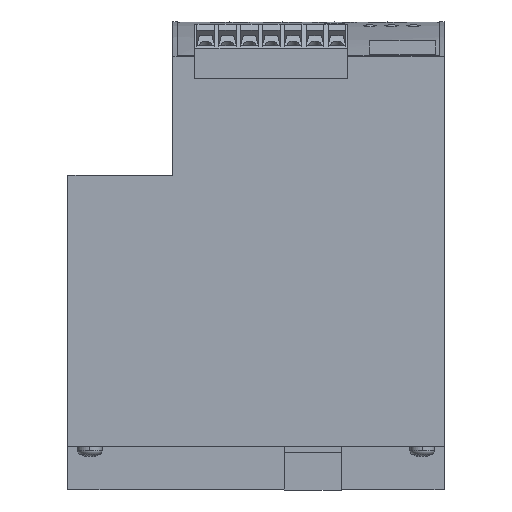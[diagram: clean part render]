
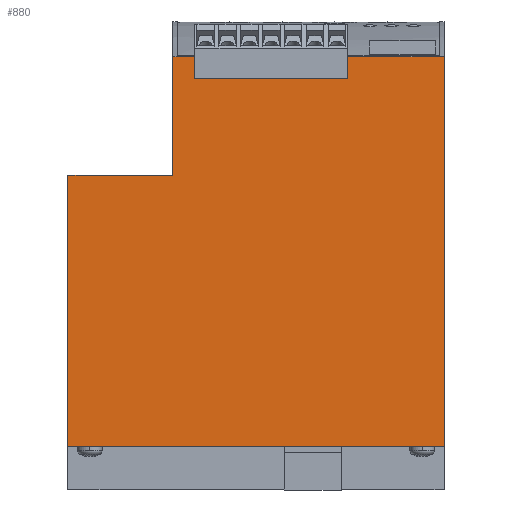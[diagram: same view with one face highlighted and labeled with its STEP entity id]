
A CAD part, front view. The second image highlights one B-rep face of the part: STEP entity #880.
In plain terms, the highlighted planar face has unit normal (0, -1, 0).
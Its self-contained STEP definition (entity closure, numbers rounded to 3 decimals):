
#880 = ADVANCED_FACE( '', ( #2580 ), #2581, .T. );
#2580 = FACE_OUTER_BOUND( '', #4283, .T. );
#2581 = PLANE( '', #4284 );
#4283 = EDGE_LOOP( '', ( #10938, #10939, #10940, #10941, #10942, #10943, #10944, #10945, #10946, #10947 ) );
#4284 = AXIS2_PLACEMENT_3D( '', #10948, #10949, #10950 );
#10938 = ORIENTED_EDGE( '', *, *, #12426, .T. );
#10939 = ORIENTED_EDGE( '', *, *, #12442, .T. );
#10940 = ORIENTED_EDGE( '', *, *, #13114, .T. );
#10941 = ORIENTED_EDGE( '', *, *, #13110, .T. );
#10942 = ORIENTED_EDGE( '', *, *, #13106, .T. );
#10943 = ORIENTED_EDGE( '', *, *, #13087, .F. );
#10944 = ORIENTED_EDGE( '', *, *, #13115, .F. );
#10945 = ORIENTED_EDGE( '', *, *, #12443, .T. );
#10946 = ORIENTED_EDGE( '', *, *, #12422, .T. );
#10947 = ORIENTED_EDGE( '', *, *, #12410, .T. );
#10948 = CARTESIAN_POINT( '', ( 43., 0., 89. ) );
#10949 = DIRECTION( '', ( 0., -1., 0. ) );
#10950 = DIRECTION( '', ( 0., 0., 1. ) );
#12410 = EDGE_CURVE( '', #15516, #15514, #15517, .T. );
#12422 = EDGE_CURVE( '', #15536, #15516, #15537, .T. );
#12426 = EDGE_CURVE( '', #15514, #15541, #15543, .T. );
#12442 = EDGE_CURVE( '', #15541, #15568, #15570, .T. );
#12443 = EDGE_CURVE( '', #15571, #15536, #15572, .T. );
#13087 = EDGE_CURVE( '', #16598, #16599, #16600, .T. );
#13106 = EDGE_CURVE( '', #16624, #16599, #16625, .T. );
#13110 = EDGE_CURVE( '', #16631, #16624, #16632, .T. );
#13114 = EDGE_CURVE( '', #15568, #16631, #16636, .T. );
#13115 = EDGE_CURVE( '', #15571, #16598, #16637, .T. );
#15514 = VERTEX_POINT( '', #21296 );
#15516 = VERTEX_POINT( '', #21299 );
#15517 = LINE( '', #21300, #21301 );
#15536 = VERTEX_POINT( '', #21331 );
#15537 = LINE( '', #21332, #21333 );
#15541 = VERTEX_POINT( '', #21338 );
#15543 = LINE( '', #21340, #21341 );
#15568 = VERTEX_POINT( '', #21377 );
#15570 = LINE( '', #21379, #21380 );
#15571 = VERTEX_POINT( '', #21381 );
#15572 = LINE( '', #21382, #21383 );
#16598 = VERTEX_POINT( '', #23554 );
#16599 = VERTEX_POINT( '', #23555 );
#16600 = LINE( '', #23556, #23557 );
#16624 = VERTEX_POINT( '', #23599 );
#16625 = LINE( '', #23600, #23601 );
#16631 = VERTEX_POINT( '', #23610 );
#16632 = LINE( '', #23611, #23612 );
#16636 = LINE( '', #23619, #23620 );
#16637 = LINE( '', #23621, #23622 );
#21296 = CARTESIAN_POINT( '', ( -14., 0., 84. ) );
#21299 = CARTESIAN_POINT( '', ( 21., 0., 84. ) );
#21300 = CARTESIAN_POINT( '', ( 32., 0., 84. ) );
#21301 = VECTOR( '', #25809, 1. );
#21331 = CARTESIAN_POINT( '', ( 21., 0., 89. ) );
#21332 = CARTESIAN_POINT( '', ( 21., 0., 44.5 ) );
#21333 = VECTOR( '', #25821, 1. );
#21338 = CARTESIAN_POINT( '', ( -14., 0., 89. ) );
#21340 = CARTESIAN_POINT( '', ( -14., 0., 44.5 ) );
#21341 = VECTOR( '', #25829, 1. );
#21377 = CARTESIAN_POINT( '', ( -19., 0., 89. ) );
#21379 = CARTESIAN_POINT( '', ( 43., 0., 89. ) );
#21380 = VECTOR( '', #25853, 1. );
#21381 = CARTESIAN_POINT( '', ( 43., 0., 89. ) );
#21382 = CARTESIAN_POINT( '', ( 43., 0., 89. ) );
#21383 = VECTOR( '', #25854, 1. );
#23554 = CARTESIAN_POINT( '', ( 43., 0., 0. ) );
#23555 = CARTESIAN_POINT( '', ( -43., 0., 0. ) );
#23556 = CARTESIAN_POINT( '', ( 43., 0., 0. ) );
#23557 = VECTOR( '', #26579, 1. );
#23599 = CARTESIAN_POINT( '', ( -43., 0., 62. ) );
#23600 = CARTESIAN_POINT( '', ( -43., 0., 89. ) );
#23601 = VECTOR( '', #26598, 1. );
#23610 = CARTESIAN_POINT( '', ( -19., 0., 62. ) );
#23611 = CARTESIAN_POINT( '', ( 0., 0., 62. ) );
#23612 = VECTOR( '', #26602, 1. );
#23619 = CARTESIAN_POINT( '', ( -19., 0., 75.5 ) );
#23620 = VECTOR( '', #26606, 1. );
#23621 = CARTESIAN_POINT( '', ( 43., 0., 89. ) );
#23622 = VECTOR( '', #26607, 1. );
#25809 = DIRECTION( '', ( -1., 0., 0. ) );
#25821 = DIRECTION( '', ( 0., 0., -1. ) );
#25829 = DIRECTION( '', ( 0., 0., 1. ) );
#25853 = DIRECTION( '', ( -1., 0., 0. ) );
#25854 = DIRECTION( '', ( -1., 0., 0. ) );
#26579 = DIRECTION( '', ( -1., 0., 0. ) );
#26598 = DIRECTION( '', ( 0., 0., -1. ) );
#26602 = DIRECTION( '', ( -1., 0., 0. ) );
#26606 = DIRECTION( '', ( 0., 0., -1. ) );
#26607 = DIRECTION( '', ( 0., 0., -1. ) );
